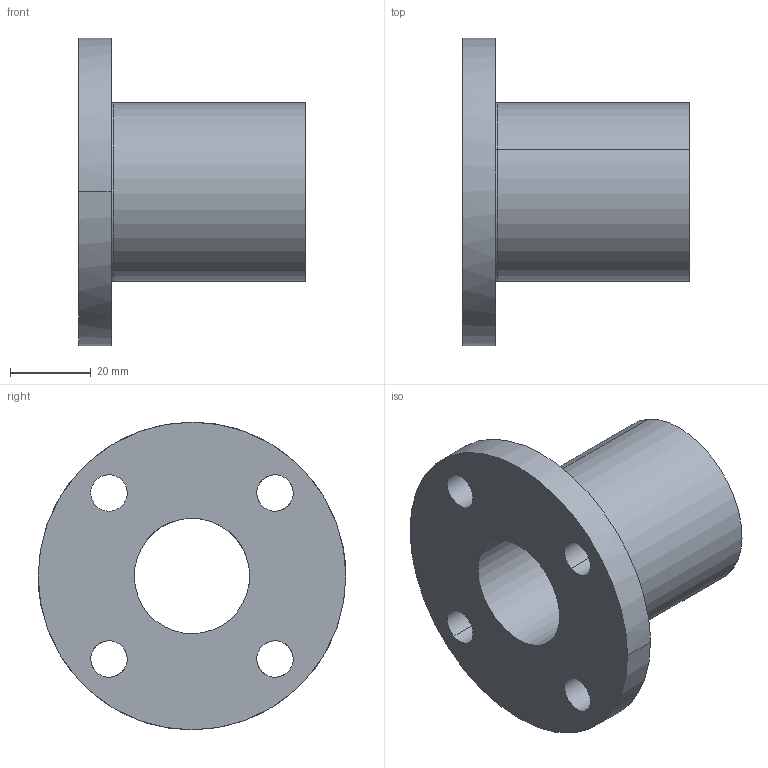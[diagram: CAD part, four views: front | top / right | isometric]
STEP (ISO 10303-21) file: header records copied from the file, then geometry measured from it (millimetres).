
FILE_DESCRIPTION(('CATIA V5 STEP Exchange'),'2;1');
FILE_NAME('C:\Users\aa\Documents\이댈\TM\TTM\TTM28.stp','2020-03-24T02:56:26+00:00',('none'),('none'),'CATIA Version 5 Release 20 SP 7 (IN-10)','CATIA V5 STEP AP203','none');
FILE_SCHEMA(('CONFIG_CONTROL_DESIGN'));
Length unit declared in the file: millimetre
Products named in the file (1): TTM28
Bounding box: 56 x 76 x 76 mm (x, y, z)
Volume: 71524.3 mm3; surface area: 21722.4 mm2
Topology: 1 solids, 1 shells, 19 faces, 46 edges, 30 vertices
Faces by surface type: cylinder 14, plane 3, torus 2
Entity records: 810 total; most frequent: CARTESIAN_POINT 322, ORIENTED_EDGE 92, DIRECTION 73, EDGE_CURVE 46, AXIS2_PLACEMENT_3D 41, EDGE_LOOP 30, VERTEX_POINT 30, CIRCLE 21
